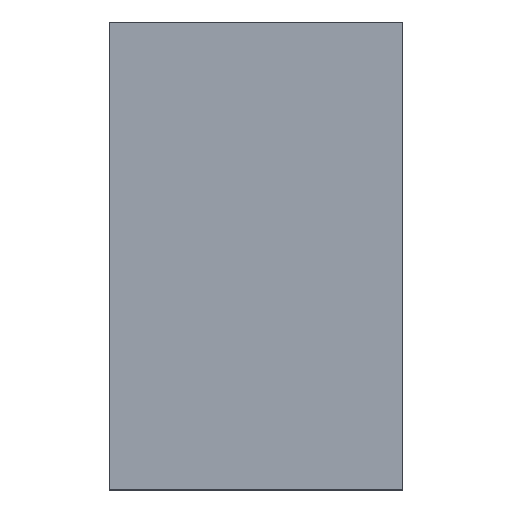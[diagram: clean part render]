
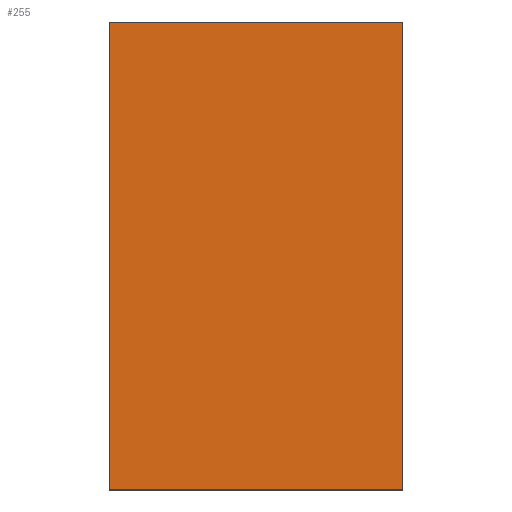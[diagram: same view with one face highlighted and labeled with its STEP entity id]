
A CAD part, top view. The second image highlights one B-rep face of the part: STEP entity #255.
In plain terms, the highlighted planar face has unit normal (0, 0, 1).
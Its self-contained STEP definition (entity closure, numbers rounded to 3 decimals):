
#1 = EDGE_CURVE ( 'NONE', #516, #615, #1093, .T. ) ;
#25 = CARTESIAN_POINT ( 'NONE',  ( 550., 878., 0. ) ) ;
#97 = EDGE_CURVE ( 'NONE', #516, #1154, #1337, .T. ) ;
#106 = DIRECTION ( 'NONE',  ( -1., 0., 0. ) ) ;
#109 = LINE ( 'NONE', #384, #1155 ) ;
#152 = CARTESIAN_POINT ( 'NONE',  ( 550., 878., 0. ) ) ;
#250 = CARTESIAN_POINT ( 'NONE',  ( 0., 0., 0. ) ) ;
#255 = ADVANCED_FACE ( 'NONE', ( #1403 ), #365, .F. ) ;
#365 = PLANE ( 'NONE',  #1315 ) ;
#369 = LINE ( 'NONE', #250, #1520 ) ;
#384 = CARTESIAN_POINT ( 'NONE',  ( 550., 0., 0. ) ) ;
#433 = CARTESIAN_POINT ( 'NONE',  ( 0., 0., 0. ) ) ;
#435 = CARTESIAN_POINT ( 'NONE',  ( 0., 878., 0. ) ) ;
#516 = VERTEX_POINT ( 'NONE', #25 ) ;
#542 = DIRECTION ( 'NONE',  ( -1., 0., 0. ) ) ;
#551 = DIRECTION ( 'NONE',  ( 0., -1., 0. ) ) ;
#601 = DIRECTION ( 'NONE',  ( 0., 0., -1. ) ) ;
#615 = VERTEX_POINT ( 'NONE', #435 ) ;
#634 = VECTOR ( 'NONE', #542, 1000. ) ;
#651 = EDGE_LOOP ( 'NONE', ( #1406, #1515, #1413, #983 ) ) ;
#687 = CARTESIAN_POINT ( 'NONE',  ( 550., 0., 0. ) ) ;
#723 = EDGE_CURVE ( 'NONE', #1154, #1123, #109, .T. ) ;
#862 = DIRECTION ( 'NONE',  ( -1., 0., 0. ) ) ;
#955 = VECTOR ( 'NONE', #551, 1000. ) ;
#983 = ORIENTED_EDGE ( 'NONE', *, *, #1, .T. ) ;
#1009 = EDGE_CURVE ( 'NONE', #615, #1123, #369, .T. ) ;
#1093 = LINE ( 'NONE', #152, #634 ) ;
#1123 = VERTEX_POINT ( 'NONE', #433 ) ;
#1154 = VERTEX_POINT ( 'NONE', #687 ) ;
#1155 = VECTOR ( 'NONE', #862, 1000. ) ;
#1179 = CARTESIAN_POINT ( 'NONE',  ( 550., 0., 0. ) ) ;
#1223 = DIRECTION ( 'NONE',  ( 0., -1., 0. ) ) ;
#1315 = AXIS2_PLACEMENT_3D ( 'NONE', #1179, #601, #106 ) ;
#1337 = LINE ( 'NONE', #1491, #955 ) ;
#1403 = FACE_OUTER_BOUND ( 'NONE', #651, .T. ) ;
#1406 = ORIENTED_EDGE ( 'NONE', *, *, #1009, .T. ) ;
#1413 = ORIENTED_EDGE ( 'NONE', *, *, #97, .F. ) ;
#1491 = CARTESIAN_POINT ( 'NONE',  ( 550., 0., 0. ) ) ;
#1515 = ORIENTED_EDGE ( 'NONE', *, *, #723, .F. ) ;
#1520 = VECTOR ( 'NONE', #1223, 1000. ) ;
